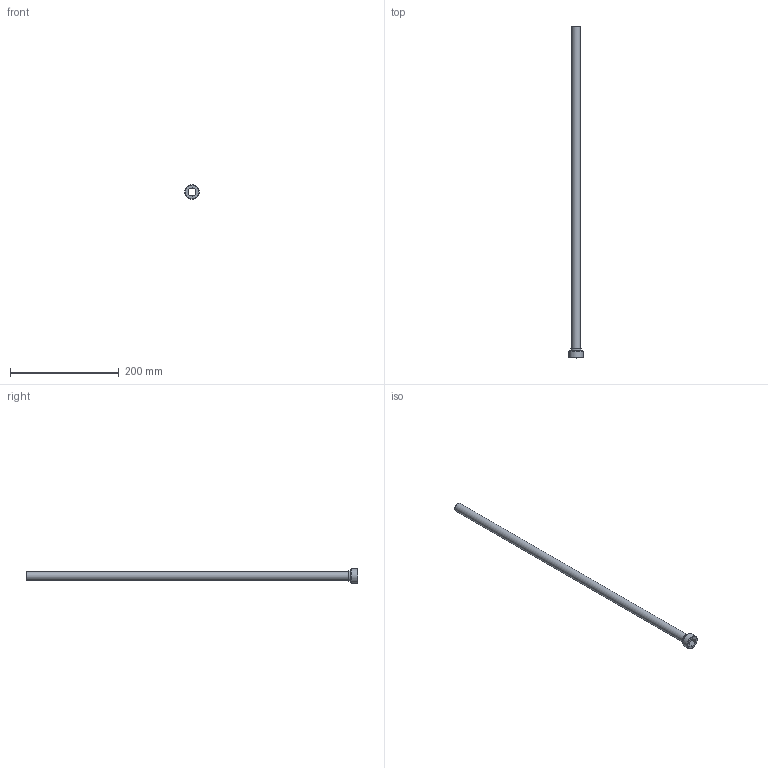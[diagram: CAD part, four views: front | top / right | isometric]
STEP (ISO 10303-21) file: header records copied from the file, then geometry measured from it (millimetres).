
FILE_DESCRIPTION(/* description */ (''),/* implementation_level */ '2;1');
FILE_NAME(/* name */ 'C:/Users/drich/Desktop/PT34-625-24 v1.step',/* time_stamp */ '2019-12-27T15:51:00-06:00',/* author */ (''),/* organization */ (''),/* preprocessor_version */ 'ST-DEVELOPER v18',/* originating_system */ 'Autodesk Translation Framework v8.12.0.6',/* authorisation */ '');
FILE_SCHEMA (('AUTOMOTIVE_DESIGN { 1 0 10303 214 3 1 1 }'));
Length unit declared in the file: inch
Products named in the file (1): PT34-625-24
Bounding box: 26.3 x 609.6 x 26.3 mm (x, y, z)
Volume: 24822.8 mm3; surface area: 59213.4 mm2
Topology: 1 solids, 1 shells, 19 faces, 48 edges, 34 vertices
Faces by surface type: plane 11, cylinder 4, torus 2, cone 2
Full cylindrical faces by diameter (mm): 14.453 x1, 15.85 x1, 19.05 x1, 26.299 x1
Entity records: 633 total; most frequent: DIRECTION 112, CARTESIAN_POINT 102, ORIENTED_EDGE 96, EDGE_CURVE 48, AXIS2_PLACEMENT_3D 44, VERTEX_POINT 34, CIRCLE 24, EDGE_LOOP 24
